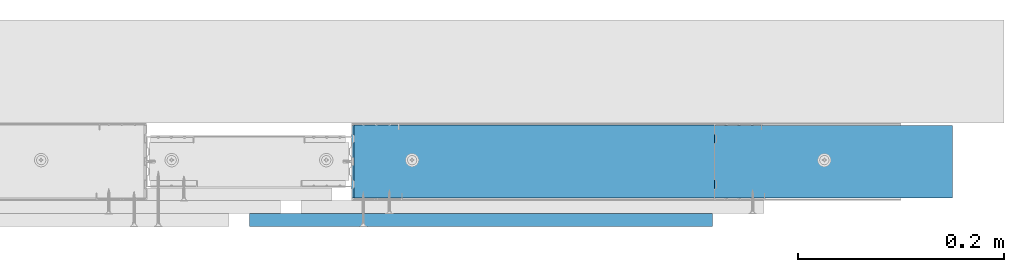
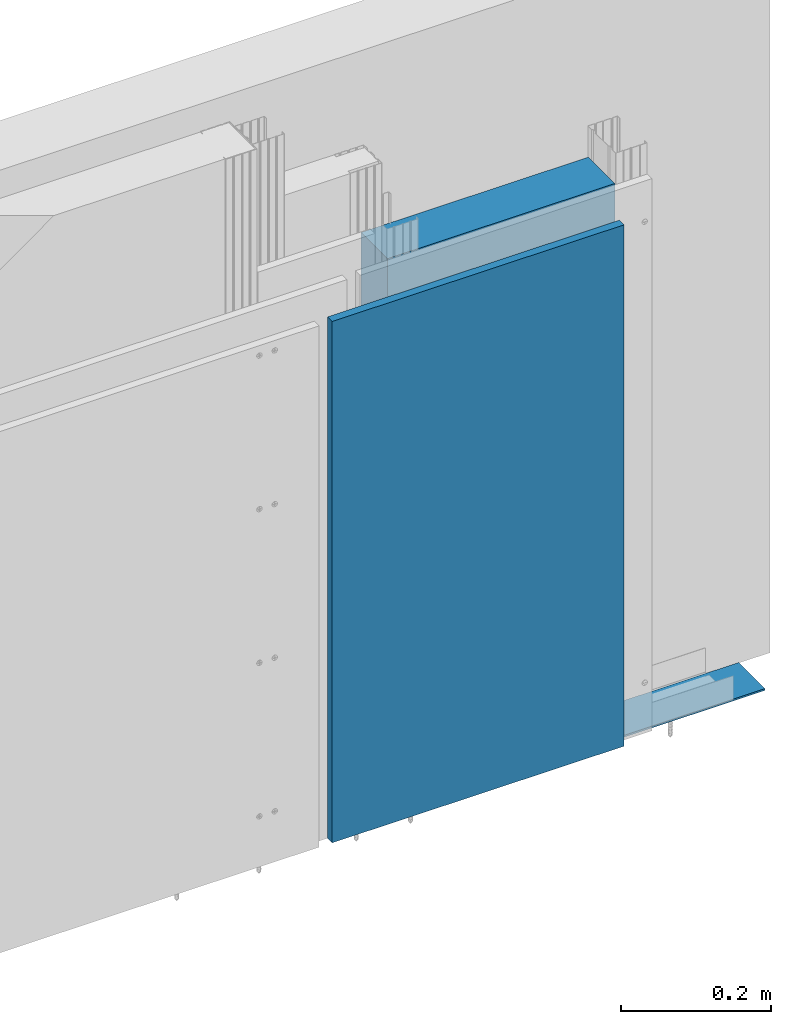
# One storey, part 5 of 39: 3 walls.
"""IFC2X3 building model written with IfcOpenShell, lengths in millimetres."""

import ifcopenshell
import ifcopenshell.guid

model = None  # the IFC model being written
_history = None  # IfcOwnerHistory: only IFC2X3 demands one
_inside = {}  # id of a spatial element -> (the spatial element, [elements in it])
_under = {}  # id of a project, library or spatial element -> (it, [spatial elements below it])
_declared = {}  # id of a project -> (the project, [libraries it declares])
_typed = {}  # id of a type object -> (the type object, [elements of that type])
_made_of = {}  # id of a material, layer set ... -> (it, [elements and type objects made of it])


def new_model(schema):
    """Start an empty IFC model of exactly this schema.

    Asked for "IFC4X3", IfcOpenShell would pick the latest addendum, in which some entities
    have other attributes; the version numbers below select the first issue.
    IFC2X3 requires an IfcOwnerHistory on every rooted entity: one is made here for all.
    """
    global model, _history
    if schema == "IFC4X3":
        model = ifcopenshell.file(schema_version=(4, 3, 0, 0))
    else:
        model = ifcopenshell.file(schema=schema)
    _inside.clear()
    _under.clear()
    _declared.clear()
    _typed.clear()
    _made_of.clear()
    _history = None
    if model.schema == "IFC2X3":
        org = make("IfcOrganization", Name="unknown")
        user = make(
            "IfcPersonAndOrganization",
            ThePerson=make("IfcPerson", FamilyName="unknown"),
            TheOrganization=org,
        )
        app = make(
            "IfcApplication",
            ApplicationDeveloper=org,
            Version="unknown",
            ApplicationFullName="unknown",
            ApplicationIdentifier="unknown",
        )
        _history = make(
            "IfcOwnerHistory",
            OwningUser=user,
            OwningApplication=app,
            ChangeAction="ADDED",
            CreationDate=0,
        )
    return model


def make(cls, **values):
    """One entity of the class cls with the attributes given. An attribute that is None is left unset."""
    return model.create_entity(
        cls, **{name: value for name, value in values.items() if value is not None}
    )


def entity(cls, *values):
    """Any entity or typed value of the class cls, its attributes in the order of the schema. None: left unset."""
    e = model.create_entity(cls)
    for i, value in enumerate(values):
        if value is not None:
            e[i] = value
    return e


def rooted(cls, **values):
    """An entity with a GlobalId (a new one), such as an element, a storey or a relation."""
    return make(cls, GlobalId=ifcopenshell.guid.new(), OwnerHistory=_history, **values)


def si_unit(unit_type, name, prefix=None):
    """IfcSIUnit, for example si_unit("LENGTHUNIT", "METRE", prefix="MILLI")."""
    return make("IfcSIUnit", UnitType=unit_type, Prefix=prefix, Name=name)


def converted_unit(unit_type, name, factor, base, dimensions=None, offset=None):
    """IfcConversionBasedUnit, such as the inch: factor (a typed value) times the base unit."""
    return make(
        "IfcConversionBasedUnit"
        if offset is None
        else "IfcConversionBasedUnitWithOffset",
        ConversionOffset=offset,
        Dimensions=None
        if dimensions is None
        else entity("IfcDimensionalExponents", *dimensions),
        UnitType=unit_type,
        Name=name,
        ConversionFactor=make(
            "IfcMeasureWithUnit", ValueComponent=factor, UnitComponent=base
        ),
    )


def assignment(units):
    """IfcUnitAssignment: the units of a project."""
    return None if units is None else make("IfcUnitAssignment", Units=units)


def point(xyz):
    """IfcCartesianPoint."""
    return None if xyz is None else make("IfcCartesianPoint", Coordinates=xyz)


def direction(xyz):
    """IfcDirection."""
    return None if xyz is None else make("IfcDirection", DirectionRatios=xyz)


def frame(location, z_axis=None, x_axis=None):
    """IfcAxis2Placement3D, a coordinate frame: its origin and axes. An axis left out is left unset."""
    return make(
        "IfcAxis2Placement3D",
        Location=point(location),
        Axis=direction(z_axis),
        RefDirection=direction(x_axis),
    )


def origin():
    """The frame at (0, 0, 0) with its axes left unset."""
    return frame((0.0, 0.0, 0.0))


def origin_with_axes():
    """The frame at (0, 0, 0) with the z axis (0, 0, 1) and the x axis (1, 0, 0) written out."""
    return frame((0.0, 0.0, 0.0), z_axis=(0.0, 0.0, 1.0), x_axis=(1.0, 0.0, 0.0))


def place(relative_to, where):
    """IfcLocalPlacement: puts the frame where relative to a parent placement (None: the world)."""
    return make(
        "IfcLocalPlacement", PlacementRelTo=relative_to, RelativePlacement=where
    )


def context(
    kind, dimensions, precision=None, world=None, true_north=None, identifier=None
):
    """IfcGeometricRepresentationContext, for example the 3D "Model" context."""
    return make(
        "IfcGeometricRepresentationContext",
        ContextIdentifier=identifier,
        ContextType=kind,
        CoordinateSpaceDimension=dimensions,
        Precision=precision,
        WorldCoordinateSystem=world,
        TrueNorth=true_north,
    )


def project(units=None, contexts=None):
    """IfcProject with its units and contexts."""
    return rooted(
        "IfcProject",
        Name="project",
        RepresentationContexts=contexts,
        UnitsInContext=assignment(units),
    )


def spatial(cls, under=None, at=None, **own):
    """A site, building, storey or space (cls), placed at a placement, below another one or the project."""
    s = rooted(cls, ObjectPlacement=at, **own)
    if under is not None:
        _under.setdefault(under.id(), (under, []))[1].append(s)
    return s


def faces_of(points, faces, orient=None, outer=None):
    """IfcFace entities. A face is a list of loops; a loop is a list of indices into points, from 0.

    orient and outer hold one flag for each loop. By default every Orientation is true, the
    first loop of a face is its IfcFaceOuterBound and the others are IfcFaceBound.
    """
    made = []
    for i, loops in enumerate(faces):
        bounds = []
        for j, loop in enumerate(loops):
            is_outer = j == 0 if outer is None else outer[i][j]
            bounds.append(
                make(
                    "IfcFaceOuterBound" if is_outer else "IfcFaceBound",
                    Bound=make("IfcPolyLoop", Polygon=[points[k] for k in loop]),
                    Orientation=True if orient is None else orient[i][j],
                )
            )
        made.append(make("IfcFace", Bounds=bounds))
    return made


def faceted_brep(points, faces, orient=None, outer=None, voids=None):
    """IfcFacetedBrep: a solid bounded by flat faces; with voids (closed shells), ...WithVoids."""
    shared = [point(p) for p in points]
    hull = make("IfcClosedShell", CfsFaces=faces_of(shared, faces, orient, outer))
    if voids is None:
        return make("IfcFacetedBrep", Outer=hull)
    return make(
        "IfcFacetedBrepWithVoids",
        Outer=hull,
        Voids=[
            make(cls, CfsFaces=faces_of(shared, fs, o, b)) for cls, fs, o, b in voids
        ],
    )


def shape(context_of_items, identifier, shape_type, items):
    """IfcShapeRepresentation: the items that make up one representation, for example the "Body"."""
    return make(
        "IfcShapeRepresentation",
        ContextOfItems=context_of_items,
        RepresentationIdentifier=identifier,
        RepresentationType=shape_type,
        Items=items,
    )


def made_of(thing, what):
    """Note that an element or type object is made of a material, layer set ...; save() writes the relation."""
    if what is not None:
        _made_of.setdefault(what.id(), (what, []))[1].append(thing)
    return thing


def element(
    cls,
    number,
    at=None,
    inside=None,
    cuts=None,
    type_object=None,
    material=None,
    context=None,
    identifier="Body",
    shape_type=None,
    held_by="IfcProductDefinitionShape",
    body=None,
    shapes=None,
    **own,
):
    """One element of the class cls, such as IfcWall. Its Tag is "e" and its number.

    at: its placement. inside: the storey or other place that contains it. cuts: it is an
    opening in that element (IfcRelVoidsElement). A single representation is given by context,
    identifier, shape_type and body (its items); several are given by shapes. held_by: the class
    of the entity that holds the representations. save() writes the other relations.
    """
    e = rooted(cls, Tag="e%d" % number, ObjectPlacement=at, **own)
    if body is not None:
        shapes = [shape(context, identifier, shape_type, body)]
    if shapes is not None:
        e.Representation = make(held_by, Representations=shapes)
    if inside is not None:
        _inside.setdefault(inside.id(), (inside, []))[1].append(e)
    if cuts is not None:
        rooted(
            "IfcRelVoidsElement", RelatingBuildingElement=cuts, RelatedOpeningElement=e
        )
    if type_object is not None:
        _typed.setdefault(type_object.id(), (type_object, []))[1].append(e)
    return made_of(e, material)


def aggregate(whole, parts):
    """IfcRelAggregates: a whole, such as a stair, and the parts it consists of."""
    return rooted("IfcRelAggregates", RelatingObject=whole, RelatedObjects=parts)


def save(model, path):
    """Write the relations noted so far, then the file.

    IfcRelAggregates (storeys below a building ...), IfcRelContainedInSpatialStructure (elements
    in a storey), IfcRelDefinesByType, IfcRelAssociatesMaterial and IfcRelDeclares: one each for
    every whole, place, type object, material and project.
    """
    for whole, parts in _under.values():
        aggregate(whole, parts)
    for where, things in _inside.values():
        rooted(
            "IfcRelContainedInSpatialStructure",
            RelatedElements=things,
            RelatingStructure=where,
        )
    for kind, things in _typed.values():
        rooted("IfcRelDefinesByType", RelatedObjects=things, RelatingType=kind)
    for what, things in _made_of.values():
        rooted("IfcRelAssociatesMaterial", RelatedObjects=things, RelatingMaterial=what)
    for by, libraries in _declared.values():
        rooted("IfcRelDeclares", RelatingContext=by, RelatedDefinitions=libraries)
    model.write(path)


model = new_model("IFC2X3")

# Units and contexts
model_context = context("Model", 3, precision=1e-05, world=origin(), true_north=direction((0.0, 1.0, 0.0)))
ifc_project = project(units=[si_unit("LENGTHUNIT", "METRE", prefix="MILLI"), si_unit("AREAUNIT", "SQUARE_METRE"), si_unit("VOLUMEUNIT", "CUBIC_METRE"), converted_unit("PLANEANGLEUNIT", "DEGREE", entity("IfcPlaneAngleMeasure", 0.01745), si_unit("PLANEANGLEUNIT", "RADIAN"), dimensions=[0, 0, 0, 0, 0, 0, 0]), si_unit("SOLIDANGLEUNIT", "STERADIAN"), si_unit("MASSUNIT", "GRAM"), si_unit("TIMEUNIT", "SECOND"), si_unit("THERMODYNAMICTEMPERATUREUNIT", "DEGREE_CELSIUS"), si_unit("LUMINOUSINTENSITYUNIT", "LUMEN")], contexts=[model_context])

# Site, building, storey
site_placement = place(None, origin_with_axes())
site = spatial("IfcSite", under=ifc_project, at=site_placement, Name="Default Site", CompositionType="ELEMENT")
building_placement = place(site_placement, origin_with_axes())
building = spatial("IfcBuilding", under=site, at=building_placement, Name="Default Building", CompositionType="ELEMENT")
storey_placement = place(building_placement, origin_with_axes())
storey = spatial("IfcBuildingStorey", under=building, at=storey_placement, Name="Default Building Storey", CompositionType="ELEMENT", Elevation=0.0)

# Walls
wall_1_placement = place(storey_placement, frame((2997.657991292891, 5348.321360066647, 8.382447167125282), z_axis=(0.0, 0.0, 1.0), x_axis=(-1.0, 4.718447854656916e-16, 0.0)))
element("IfcWall", 1, at=wall_1_placement, inside=storey, Name="Wełna mineralna szklana lub skalna ISOVER", context=model_context, shape_type="Brep", body=[
    faceted_brep([(-464.2660426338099, 3398.989379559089, 900.0079488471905), (-114.6243169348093, 3398.989379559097, 900.0079488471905), (-114.6243169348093, 3398.989379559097, 2.350000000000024), (-464.2660426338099, 3398.989379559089, 2.350000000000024), (-464.2660426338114, 3328.283223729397, 900.0079488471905), (-464.2660426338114, 3328.283223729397, 2.350000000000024), (-114.62431693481, 3328.2832237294, 2.350000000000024), (-114.62431693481, 3328.2832237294, 900.0079488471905)], [[[0, 1, 2, 3]], [[4, 0, 3, 5]], [[2, 6, 5, 3]], [[4, 7, 1, 0]], [[5, 6, 7, 4]], [[1, 7, 6, 2]]]),
])
wall_2_placement = place(storey_placement, frame((3788.221819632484, 1934.291292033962, 1059.999999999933), z_axis=(0.0, 0.0, 1.0), x_axis=(-1.0, 6.389333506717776e-13, 0.0)))
element("IfcWall", 2, at=wall_2_placement, inside=storey, Name="Płyta gipsowo-kartonowa RIGIPS PRO (4PRO™)", context=model_context, shape_type="Brep", body=[
    faceted_brep([(328.097785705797, -4.067970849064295e-10, -201.6096039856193), (328.0977857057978, 12.49999999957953, -201.6096039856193), (328.0977857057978, 12.49999999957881, -1050.001581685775), (328.097785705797, -4.075189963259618e-10, -1050.001581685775), (777.2895112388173, 12.49999999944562, -201.6096039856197), (777.2895112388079, -5.26634380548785e-10, -201.6096039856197), (777.289511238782, -5.24107690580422e-10, -1050.001581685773), (777.2895112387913, 12.49999999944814, -1050.001581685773)], [[[0, 1, 2, 3]], [[4, 5, 6, 7]], [[4, 1, 0, 5]], [[7, 2, 1, 4]], [[0, 3, 6, 5]], [[6, 3, 2, 7]]]),
])
wall_3_placement = place(storey_placement, frame((2809.694246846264, 1992.890922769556, 2.384025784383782), z_axis=(0.0, 0.0, 1.0), x_axis=(1.0, 0.0, 0.0)))
element("IfcWall", 3, at=wall_3_placement, inside=storey, Name="Taśma uszczelniająca piankowa RIGIPS", context=model_context, shape_type="Brep", body=[
    faceted_brep([(300.0251334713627, -43.50000002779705, 2.998418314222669), (883.3463713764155, -43.50000002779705, 2.998418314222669), (883.3463713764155, 26.69999997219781, 3.001783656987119), (300.0251334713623, 26.69999997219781, 3.001783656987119), (300.0251334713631, -43.50000002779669, -2.129427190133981e-12), (883.3463713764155, -43.50000002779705, -2.129427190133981e-12), (300.0251334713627, 26.69999997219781, 0.001783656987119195), (883.3463713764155, 26.69999997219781, 0.001783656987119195)], [[[0, 1, 2, 3]], [[1, 0, 4, 5]], [[5, 4, 6, 7]], [[3, 6, 4, 0]], [[7, 6, 3, 2]], [[2, 1, 5, 7]]]),
])

save(model, "model.ifc")
